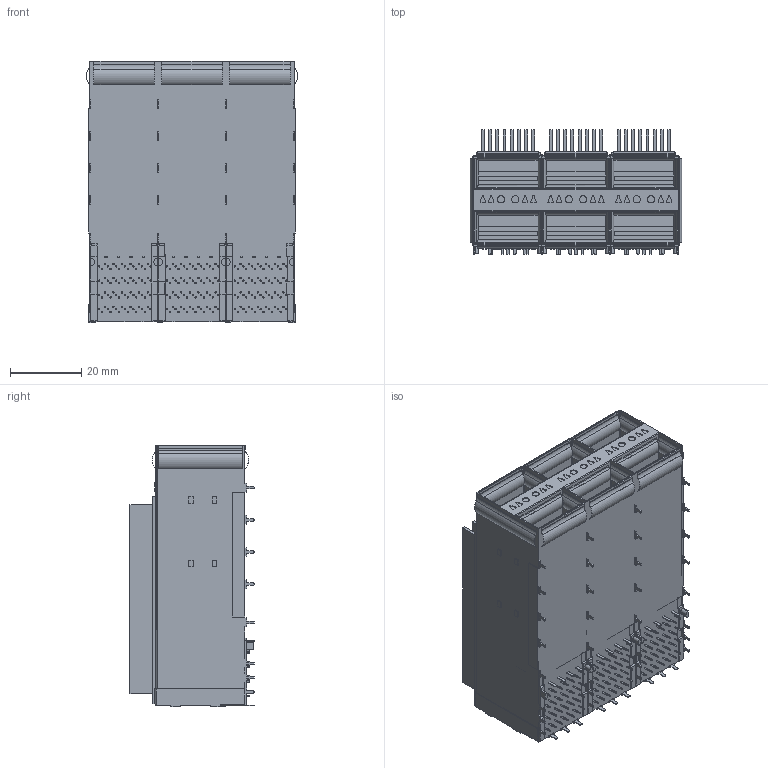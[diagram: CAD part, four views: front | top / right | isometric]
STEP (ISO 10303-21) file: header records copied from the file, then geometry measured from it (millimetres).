
FILE_DESCRIPTION (( 'STEP AP214' ), '1' );
FILE_NAME ('444444444444444444444.STEP', '2025-04-11T07:59:55', ( '桑三博客' ), ( 'Www.SangSan.Cn' ), 'SwSTEP 2.0', 'SolidWorks 2018', '' );
FILE_SCHEMA (( 'AUTOMOTIVE_DESIGN' ));
Length unit declared in the file: millimetre
Products named in the file (3): Hesatsink-1_祥湍絳嫖翐-傖こ詢32.67; QSFP28 2XN_3; 444444444444444444444
Assembly tree (4 placements, depth 2):
  444444444444444444444
    QSFP28 2XN_3
    Hesatsink-1_祥湍絳嫖翐-傖こ詢32.67  x3
Bounding box: 59.26 x 34.72 x 73.24 mm (x, y, z)
Volume: 64231.4 mm3; surface area: 64025.5 mm2
Topology: 4 solids, 4 shells, 2365 faces, 5994 edges, 3974 vertices
Faces by surface type: plane 1429, cylinder 935, sphere 1
Entity records: 68944 total; most frequent: CARTESIAN_POINT 12266, DIRECTION 12052, ORIENTED_EDGE 11458, EDGE_CURVE 5729, AXIS2_PLACEMENT_3D 4158, VERTEX_POINT 3798, VECTOR 3736, LINE 3736
